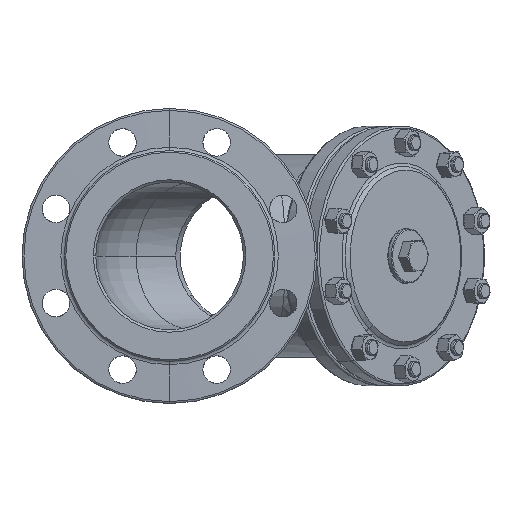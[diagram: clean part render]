
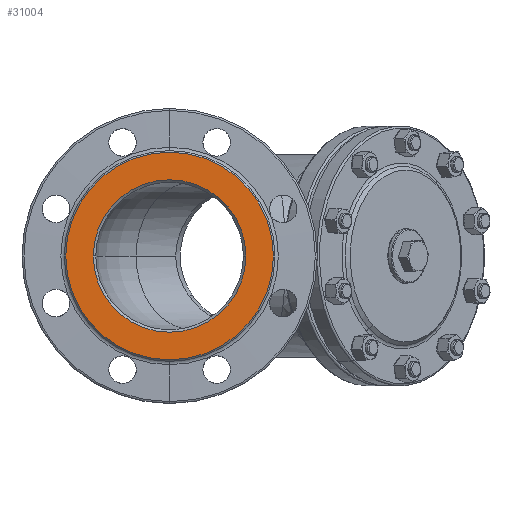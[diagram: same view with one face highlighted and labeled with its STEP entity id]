
A CAD part, left-side view. The second image highlights one B-rep face of the part: STEP entity #31004.
In plain terms, the highlighted planar face has unit normal (-1, 0, 0).
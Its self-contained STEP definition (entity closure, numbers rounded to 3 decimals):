
#4659 = VERTEX_POINT ( 'NONE', #37149 ) ;
#4660 = VERTEX_POINT ( 'NONE', #37150 ) ;
#4771 = VERTEX_POINT ( 'NONE', #37261 ) ;
#4772 = VERTEX_POINT ( 'NONE', #37262 ) ;
#9304 = AXIS2_PLACEMENT_3D ( 'NONE', #16834, #16840, #16841 ) ;
#9696 = AXIS2_PLACEMENT_3D ( 'NONE', #38783, #38784, #38785 ) ;
#9702 = AXIS2_PLACEMENT_3D ( 'NONE', #38758, #38764, #38765 ) ;
#9790 = AXIS2_PLACEMENT_3D ( 'NONE', #41238, #41245, #41246 ) ;
#9794 = AXIS2_PLACEMENT_3D ( 'NONE', #41250, #41256, #41257 ) ;
#11879 = CIRCLE ( 'NONE', #9304, 77.5 ) ;
#16834 = CARTESIAN_POINT ( 'NONE',  ( 0., 0., 0. ) ) ;
#16840 = DIRECTION ( 'NONE',  ( 1., 0., 0. ) ) ;
#16841 = DIRECTION ( 'NONE',  ( 0., 0., 1. ) ) ;
#20272 = FACE_BOUND ( 'NONE', #32389, .T. ) ;
#20275 = FACE_OUTER_BOUND ( 'NONE', #32349, .T. ) ;
#20292 = CIRCLE ( 'NONE', #9696, 105.5 ) ;
#20443 = CIRCLE ( 'NONE', #9790, 77.5 ) ;
#20448 = CIRCLE ( 'NONE', #9794, 105.5 ) ;
#23107 = EDGE_CURVE ( 'NONE', #4772, #4771, #11879, .T. ) ;
#26931 = ORIENTED_EDGE ( 'NONE', *, *, #23107, .T. ) ;
#26932 = ORIENTED_EDGE ( 'NONE', *, *, #35307, .T. ) ;
#26933 = ORIENTED_EDGE ( 'NONE', *, *, #34876, .F. ) ;
#26934 = ORIENTED_EDGE ( 'NONE', *, *, #35316, .F. ) ;
#31004 = ADVANCED_FACE ( 'NONE', ( #20272, #20275 ), #38755, .F. ) ;
#32349 = EDGE_LOOP ( 'NONE', ( #26933, #26934 ) ) ;
#32389 = EDGE_LOOP ( 'NONE', ( #26931, #26932 ) ) ;
#34876 = EDGE_CURVE ( 'NONE', #4660, #4659, #20292, .T. ) ;
#35307 = EDGE_CURVE ( 'NONE', #4771, #4772, #20443, .T. ) ;
#35316 = EDGE_CURVE ( 'NONE', #4659, #4660, #20448, .T. ) ;
#37149 = CARTESIAN_POINT ( 'NONE',  ( 0., 0., 105.5 ) ) ;
#37150 = CARTESIAN_POINT ( 'NONE',  ( 0., 0., -105.5 ) ) ;
#37261 = CARTESIAN_POINT ( 'NONE',  ( 0., 77.5, 0. ) ) ;
#37262 = CARTESIAN_POINT ( 'NONE',  ( 0., -77.5, 0. ) ) ;
#38755 = PLANE ( 'NONE',  #9702 ) ;
#38758 = CARTESIAN_POINT ( 'NONE',  ( 0., 0., 0. ) ) ;
#38764 = DIRECTION ( 'NONE',  ( 1., 0., 0. ) ) ;
#38765 = DIRECTION ( 'NONE',  ( 0., 0., 1. ) ) ;
#38783 = CARTESIAN_POINT ( 'NONE',  ( 0., 0., 0. ) ) ;
#38784 = DIRECTION ( 'NONE',  ( 1., 0., 0. ) ) ;
#38785 = DIRECTION ( 'NONE',  ( 0., 0., 1. ) ) ;
#41238 = CARTESIAN_POINT ( 'NONE',  ( 0., 0., 0. ) ) ;
#41245 = DIRECTION ( 'NONE',  ( 1., 0., 0. ) ) ;
#41246 = DIRECTION ( 'NONE',  ( 0., 0., 1. ) ) ;
#41250 = CARTESIAN_POINT ( 'NONE',  ( 0., 0., 0. ) ) ;
#41256 = DIRECTION ( 'NONE',  ( 1., 0., 0. ) ) ;
#41257 = DIRECTION ( 'NONE',  ( 0., 0., 1. ) ) ;
